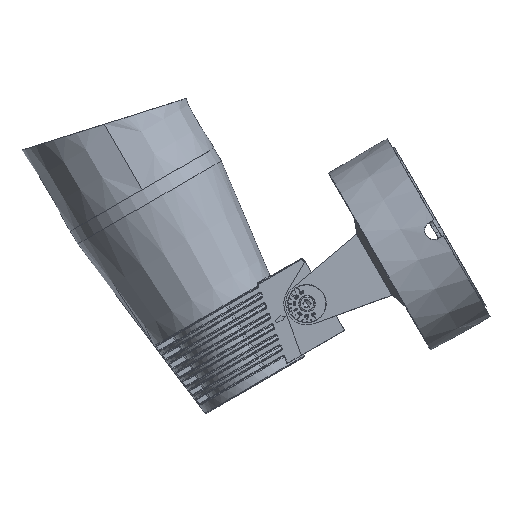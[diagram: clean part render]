
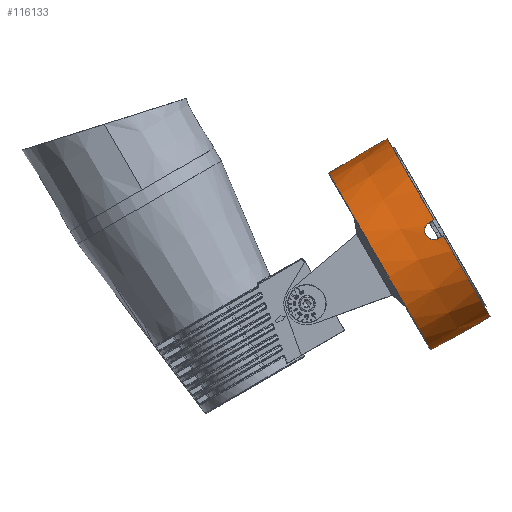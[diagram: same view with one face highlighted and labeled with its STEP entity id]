
A CAD part, left-side view. The second image highlights one B-rep face of the part: STEP entity #116133.
In plain terms, the highlighted conical face has half-angle 1 degrees and reference radius 55.679 mm.
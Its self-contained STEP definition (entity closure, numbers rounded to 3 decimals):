
#111531=CARTESIAN_POINT('',(0.,-42.,0.));
#111532=DIRECTION('',(0.,-1.,0.));
#111533=DIRECTION('',(-0.089,0.,0.996));
#111534=AXIS2_PLACEMENT_3D('',#111531,#111532,#111533);
#111589=CARTESIAN_POINT('',(0.,-42.,0.));
#111590=DIRECTION('',(0.,-1.,0.));
#111591=DIRECTION('',(0.996,0.,0.089));
#111592=AXIS2_PLACEMENT_3D('',#111589,#111590,#111591);
#111603=CARTESIAN_POINT('',(0.,-5.197,0.));
#111604=DIRECTION('',(0.,1.,0.));
#111605=DIRECTION('',(-1.,0.,0.));
#111606=AXIS2_PLACEMENT_3D('',#111603,#111604,#111605);
#111608=DIRECTION('',(0.017,-1.,0.));
#111609=VECTOR('',#111608,28.808);
#111610=CARTESIAN_POINT('',(55.358,-5.197,
0.));
#111611=LINE('',#111610,#111609);
#111612=CARTESIAN_POINT('',(55.724,-39.,5.));
#111613=CARTESIAN_POINT('',(55.716,-38.564,5.));
#111614=CARTESIAN_POINT('',(55.711,-37.691,
4.885));
#111615=CARTESIAN_POINT('',(55.733,-36.475,
4.382));
#111616=CARTESIAN_POINT('',(55.773,-35.425,
3.578));
#111617=CARTESIAN_POINT('',(55.818,-34.62,
2.528));
#111618=CARTESIAN_POINT('',(55.852,-34.115,
1.31));
#111619=CARTESIAN_POINT('',(55.86,-34.,
0.437));
#111620=CARTESIAN_POINT('',(55.86,-34.,0.));
#111622=CARTESIAN_POINT('',(55.776,-42.,5.));
#111623=CARTESIAN_POINT('',(55.759,-41.,5.));
#111624=CARTESIAN_POINT('',(55.741,-40.,5.));
#111625=CARTESIAN_POINT('',(55.724,-39.,5.));
#111627=CARTESIAN_POINT('',(5.,-39.,55.724));
#111628=CARTESIAN_POINT('',(5.,-40.,55.741));
#111629=CARTESIAN_POINT('',(5.,-41.,55.759));
#111630=CARTESIAN_POINT('',(5.,-42.,55.776));
#111632=CARTESIAN_POINT('',(-5.,-39.,55.724));
#111633=CARTESIAN_POINT('',(-5.,-38.564,55.716));
#111634=CARTESIAN_POINT('',(-4.885,-37.691,
55.711));
#111635=CARTESIAN_POINT('',(-4.382,-36.475,
55.733));
#111636=CARTESIAN_POINT('',(-3.578,-35.425,
55.773));
#111637=CARTESIAN_POINT('',(-2.527,-34.619,
55.818));
#111638=CARTESIAN_POINT('',(-1.31,-34.115,
55.852));
#111639=CARTESIAN_POINT('',(0.,-33.942,
55.865));
#111640=CARTESIAN_POINT('',(1.31,-34.115,
55.852));
#111641=CARTESIAN_POINT('',(2.527,-34.619,
55.818));
#111642=CARTESIAN_POINT('',(3.578,-35.425,
55.773));
#111643=CARTESIAN_POINT('',(4.382,-36.475,
55.733));
#111644=CARTESIAN_POINT('',(4.885,-37.691,
55.711));
#111645=CARTESIAN_POINT('',(5.,-38.564,55.716));
#111646=CARTESIAN_POINT('',(5.,-39.,55.724));
#111648=CARTESIAN_POINT('',(-5.,-42.,55.776));
#111649=CARTESIAN_POINT('',(-5.,-41.,55.759));
#111650=CARTESIAN_POINT('',(-5.,-40.,55.741));
#111651=CARTESIAN_POINT('',(-5.,-39.,55.724));
#111653=CARTESIAN_POINT('',(-55.724,-39.,5.));
#111654=CARTESIAN_POINT('',(-55.741,-40.,5.));
#111655=CARTESIAN_POINT('',(-55.759,-41.,5.));
#111656=CARTESIAN_POINT('',(-55.776,-42.,5.));
#111658=CARTESIAN_POINT('',(-55.86,-34.,
0.));
#111659=CARTESIAN_POINT('',(-55.86,-34.,
0.437));
#111660=CARTESIAN_POINT('',(-55.852,-34.115,
1.31));
#111661=CARTESIAN_POINT('',(-55.818,-34.62,
2.528));
#111662=CARTESIAN_POINT('',(-55.773,-35.425,
3.578));
#111663=CARTESIAN_POINT('',(-55.733,-36.475,
4.382));
#111664=CARTESIAN_POINT('',(-55.711,-37.691,
4.885));
#111665=CARTESIAN_POINT('',(-55.716,-38.564,5.));
#111666=CARTESIAN_POINT('',(-55.724,-39.,5.));
#111668=DIRECTION('',(0.017,1.,0.));
#111669=VECTOR('',#111668,28.808);
#111670=CARTESIAN_POINT('',(-55.86,-34.,
0.));
#111671=LINE('',#111670,#111669);
#111733=CARTESIAN_POINT('',(55.86,-34.,0.));
#113100=VERTEX_POINT('',#111627);
#113101=VERTEX_POINT('',#111630);
#113104=VERTEX_POINT('',#111658);
#113105=VERTEX_POINT('',#111666);
#113108=CARTESIAN_POINT('',(-5.,-39.,55.724));
#113109=VERTEX_POINT('',#113108);
#113110=CARTESIAN_POINT('',(-5.,-42.,55.776));
#113111=CARTESIAN_POINT('',(-55.776,-42.,5.));
#113112=VERTEX_POINT('',#113110);
#113113=VERTEX_POINT('',#113111);
#113114=CARTESIAN_POINT('',(55.776,-42.,5.));
#113115=VERTEX_POINT('',#113114);
#113123=VERTEX_POINT('',#111625);
#113124=VERTEX_POINT('',#111733);
#113270=CARTESIAN_POINT('',(-55.358,-5.197,0.));
#113271=CARTESIAN_POINT('',(55.358,-5.197,
0.));
#113272=VERTEX_POINT('',#113270);
#113273=VERTEX_POINT('',#113271);
#116109=CARTESIAN_POINT('',(0.,-23.598,0.));
#116110=DIRECTION('',(0.,-1.,0.));
#116111=DIRECTION('',(1.,0.,0.));
#116112=AXIS2_PLACEMENT_3D('',#116109,#116110,#116111);
#116113=CONICAL_SURFACE('',#116112,55.679,1.);
#116115=ORIENTED_EDGE('',*,*,#116114,.T.);
#116117=ORIENTED_EDGE('',*,*,#116116,.T.);
#116119=ORIENTED_EDGE('',*,*,#116118,.F.);
#116121=ORIENTED_EDGE('',*,*,#116120,.F.);
#116122=ORIENTED_EDGE('',*,*,#116101,.T.);
#116123=ORIENTED_EDGE('',*,*,#116090,.F.);
#116124=ORIENTED_EDGE('',*,*,#116076,.F.);
#116125=ORIENTED_EDGE('',*,*,#116062,.F.);
#116126=ORIENTED_EDGE('',*,*,#116048,.T.);
#116127=ORIENTED_EDGE('',*,*,#116034,.F.);
#116128=ORIENTED_EDGE('',*,*,#116020,.F.);
#116130=ORIENTED_EDGE('',*,*,#116129,.T.);
#116131=EDGE_LOOP('',(#116115,#116117,#116119,#116121,#116122,#116123,#116124,
#116125,#116126,#116127,#116128,#116130));
#116132=FACE_OUTER_BOUND('',#116131,.F.);
#116133=ADVANCED_FACE('',(#116132),#116113,.T.);
#111535=CIRCLE('',#111534,56.);
#111593=CIRCLE('',#111592,56.);
#111607=CIRCLE('',#111606,55.358);
#111621=B_SPLINE_CURVE_WITH_KNOTS('',3,(#111612,#111613,#111614,#111615,#111616,
#111617,#111618,#111619,#111620),.UNSPECIFIED.,.F.,.F.,(4,1,1,1,1,1,4),(0.,
0.167,0.333,0.5,0.667,0.833,
1.),.UNSPECIFIED.);
#111626=B_SPLINE_CURVE_WITH_KNOTS('',3,(#111622,#111623,#111624,#111625),
.UNSPECIFIED.,.F.,.F.,(4,4),(0.,1.),.UNSPECIFIED.);
#111631=B_SPLINE_CURVE_WITH_KNOTS('',3,(#111627,#111628,#111629,#111630),
.UNSPECIFIED.,.F.,.F.,(4,4),(0.,1.),.UNSPECIFIED.);
#111647=B_SPLINE_CURVE_WITH_KNOTS('',3,(#111632,#111633,#111634,#111635,#111636,
#111637,#111638,#111639,#111640,#111641,#111642,#111643,#111644,#111645,
#111646),.UNSPECIFIED.,.F.,.F.,(4,1,1,1,1,1,1,1,1,1,1,1,4),(0.,
0.083,0.167,0.25,0.333,0.417,
0.5,0.583,0.667,0.75,0.833,
0.917,1.),.UNSPECIFIED.);
#111652=B_SPLINE_CURVE_WITH_KNOTS('',3,(#111648,#111649,#111650,#111651),
.UNSPECIFIED.,.F.,.F.,(4,4),(0.,1.),.UNSPECIFIED.);
#111657=B_SPLINE_CURVE_WITH_KNOTS('',3,(#111653,#111654,#111655,#111656),
.UNSPECIFIED.,.F.,.F.,(4,4),(0.,1.),.UNSPECIFIED.);
#111667=B_SPLINE_CURVE_WITH_KNOTS('',3,(#111658,#111659,#111660,#111661,#111662,
#111663,#111664,#111665,#111666),.UNSPECIFIED.,.F.,.F.,(4,1,1,1,1,1,4),(0.,
0.167,0.333,0.5,0.667,0.833,
1.),.UNSPECIFIED.);
#116020=EDGE_CURVE('',#113104,#113105,#111667,.T.);
#116034=EDGE_CURVE('',#113105,#113113,#111657,.T.);
#116048=EDGE_CURVE('',#113112,#113113,#111535,.T.);
#116062=EDGE_CURVE('',#113112,#113109,#111652,.T.);
#116076=EDGE_CURVE('',#113109,#113100,#111647,.T.);
#116090=EDGE_CURVE('',#113100,#113101,#111631,.T.);
#116101=EDGE_CURVE('',#113115,#113101,#111593,.T.);
#116114=EDGE_CURVE('',#113272,#113273,#111607,.T.);
#116116=EDGE_CURVE('',#113273,#113124,#111611,.T.);
#116118=EDGE_CURVE('',#113123,#113124,#111621,.T.);
#116120=EDGE_CURVE('',#113115,#113123,#111626,.T.);
#116129=EDGE_CURVE('',#113104,#113272,#111671,.T.);
